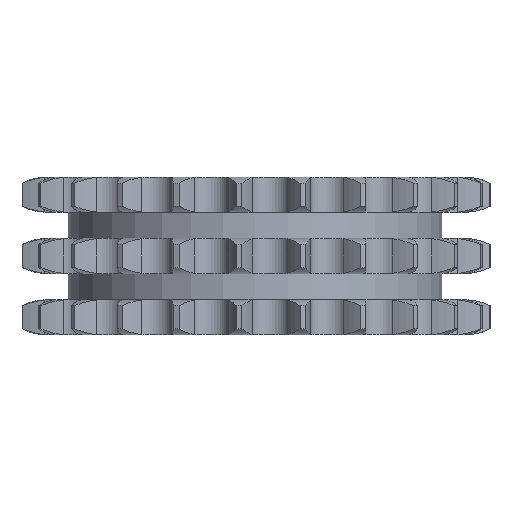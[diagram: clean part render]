
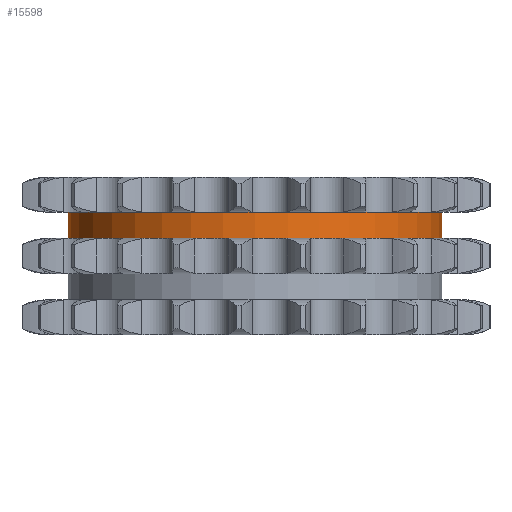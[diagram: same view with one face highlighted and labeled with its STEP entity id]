
A CAD part, left-side view. The second image highlights one B-rep face of the part: STEP entity #15598.
In plain terms, the highlighted cylindrical face has radius 58.951 mm (diameter 117.902 mm), a partial arc.
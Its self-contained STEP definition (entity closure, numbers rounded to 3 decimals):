
#3255=DIRECTION('',(0.,0.,-1.));
#3256=VECTOR('',#3255,8.25);
#3257=CARTESIAN_POINT('',(0.,58.951,13.8));
#3258=LINE('',#3257,#3256);
#3262=CARTESIAN_POINT('',(0.,0.,13.8));
#3263=DIRECTION('',(0.,0.,1.));
#3264=DIRECTION('',(0.,1.,0.));
#3265=AXIS2_PLACEMENT_3D('',#3262,#3263,#3264);
#3270=DIRECTION('',(0.,0.,-1.));
#3271=VECTOR('',#3270,8.25);
#3272=CARTESIAN_POINT('',(0.,-58.951,13.8));
#3273=LINE('',#3272,#3271);
#3277=CARTESIAN_POINT('',(0.,0.,5.55));
#3278=DIRECTION('',(0.,0.,1.));
#3279=DIRECTION('',(0.,1.,0.));
#3280=AXIS2_PLACEMENT_3D('',#3277,#3278,#3279);
#12216=CARTESIAN_POINT('',(0.,58.951,13.8));
#12217=CARTESIAN_POINT('',(0.,58.951,5.55));
#12218=VERTEX_POINT('',#12216);
#12219=VERTEX_POINT('',#12217);
#12220=CARTESIAN_POINT('',(0.,-58.951,13.8));
#12221=CARTESIAN_POINT('',(0.,-58.951,5.55));
#12222=VERTEX_POINT('',#12220);
#12223=VERTEX_POINT('',#12221);
#15586=CARTESIAN_POINT('',(0.,0.,15.18));
#15587=DIRECTION('',(0.,0.,-1.));
#15588=DIRECTION('',(0.,-1.,0.));
#15589=AXIS2_PLACEMENT_3D('',#15586,#15587,#15588);
#15590=CYLINDRICAL_SURFACE('',#15589,58.951);
#15591=ORIENTED_EDGE('',*,*,#15576,.F.);
#15592=ORIENTED_EDGE('',*,*,#15566,.T.);
#15593=ORIENTED_EDGE('',*,*,#15580,.T.);
#15595=ORIENTED_EDGE('',*,*,#15594,.F.);
#15596=EDGE_LOOP('',(#15591,#15592,#15593,#15595));
#15597=FACE_OUTER_BOUND('',#15596,.F.);
#15598=ADVANCED_FACE('',(#15597),#15590,.T.);
#3266=CIRCLE('',#3265,58.951);
#3281=CIRCLE('',#3280,58.951);
#15566=EDGE_CURVE('',#12218,#12222,#3266,.T.);
#15576=EDGE_CURVE('',#12218,#12219,#3258,.T.);
#15580=EDGE_CURVE('',#12222,#12223,#3273,.T.);
#15594=EDGE_CURVE('',#12219,#12223,#3281,.T.);
